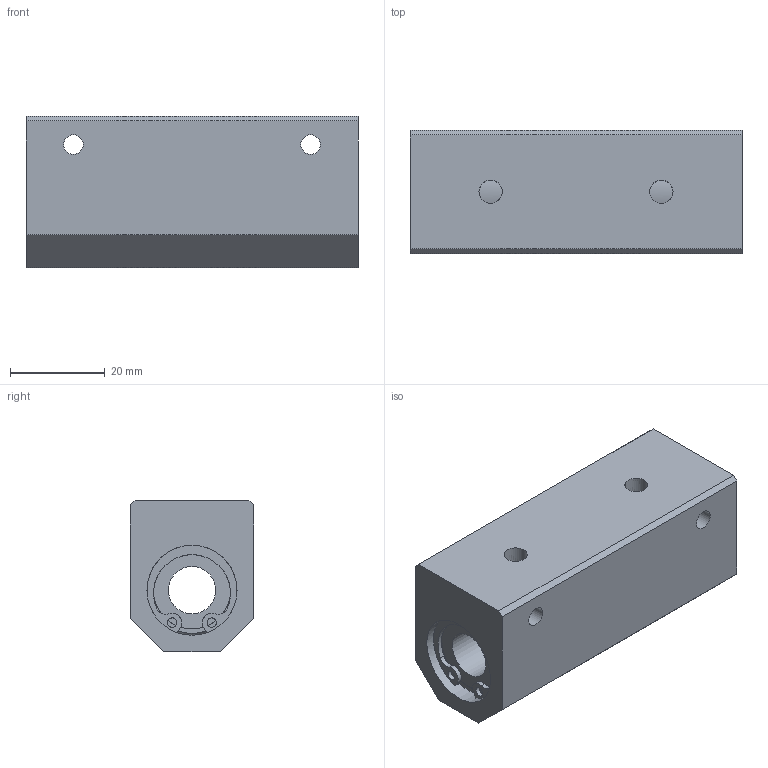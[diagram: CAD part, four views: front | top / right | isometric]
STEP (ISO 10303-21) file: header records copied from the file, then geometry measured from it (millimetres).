
FILE_DESCRIPTION((''),'2;1');
FILE_NAME('D:\製品 (図面)\カタログ用3D\メンテナンスフリー関連\STEP形式\CHW-MF\CHW10MF.stp','2010-06-01T15:32:06',('Tsuchiya'),(''),'Autodesk Inventor 10','Autodesk Inventor 10','');
FILE_SCHEMA(('AUTOMOTIVE_DESIGN { 1 0 10303 214 1 1 1 1 }'));
Length unit declared in the file: millimetre
Products named in the file (1): CHW10MF
Bounding box: 70 x 26 x 32 mm (x, y, z)
Volume: 46522.2 mm3; surface area: 13100 mm2
Topology: 1 solids, 3 shells, 75 faces, 191 edges, 120 vertices
Faces by surface type: plane 33, bspline 22, cylinder 18, torus 2
Full cylindrical faces by diameter (mm): 2 x2, 10 x1, 16.3 x2, 18 x2, 19 x4
Entity records: 2382 total; most frequent: CARTESIAN_POINT 706, DIRECTION 356, ORIENTED_EDGE 304, AXIS2_PLACEMENT_3D 152, EDGE_CURVE 152, EDGE_LOOP 118, VERTEX_POINT 104, CIRCLE 98
